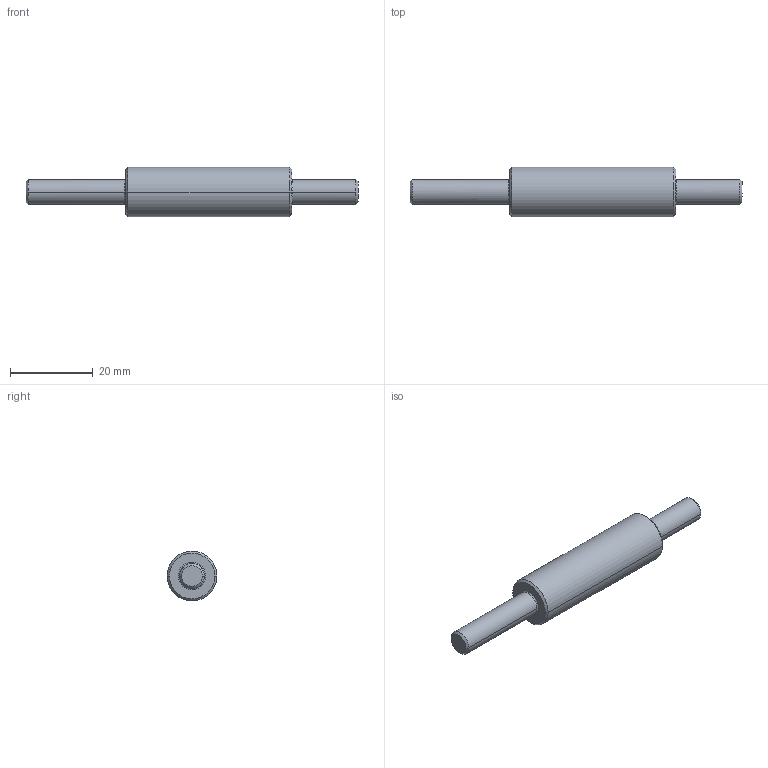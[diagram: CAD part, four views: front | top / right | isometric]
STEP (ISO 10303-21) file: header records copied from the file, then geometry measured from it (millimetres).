
FILE_DESCRIPTION(/* description */ (''),/* implementation_level */ '2;1');
FILE_NAME(/* name */ '6.y-drive#6.5#SFAJ12-40-F16-P6-T24',/* time_stamp */ '2014-12-01T20:14:59+01:00',/* author */ (''),/* organization */ (''),/* preprocessor_version */ 'ST-DEVELOPER v14',/* originating_system */ '',/* authorisation */ '');
FILE_SCHEMA (('AUTOMOTIVE_DESIGN'));
Length unit declared in the file: millimetre
Products named in the file (1): Document
Bounding box: 80 x 12 x 11.98 mm (x, y, z)
Volume: 5660.4 mm3; surface area: 2450.4 mm2
Topology: 1 solids, 1 shells, 22 faces, 46 edges, 28 vertices
Faces by surface type: bspline 18, plane 4
Entity records: 1604 total; most frequent: CARTESIAN_POINT 998, B_SPLINE_CURVE_WITH_KNOTS 94, ORIENTED_EDGE 92, PCURVE 92, DEFINITIONAL_REPRESENTATION 92, SURFACE_CURVE 46, EDGE_CURVE 46, VERTEX_POINT 28
